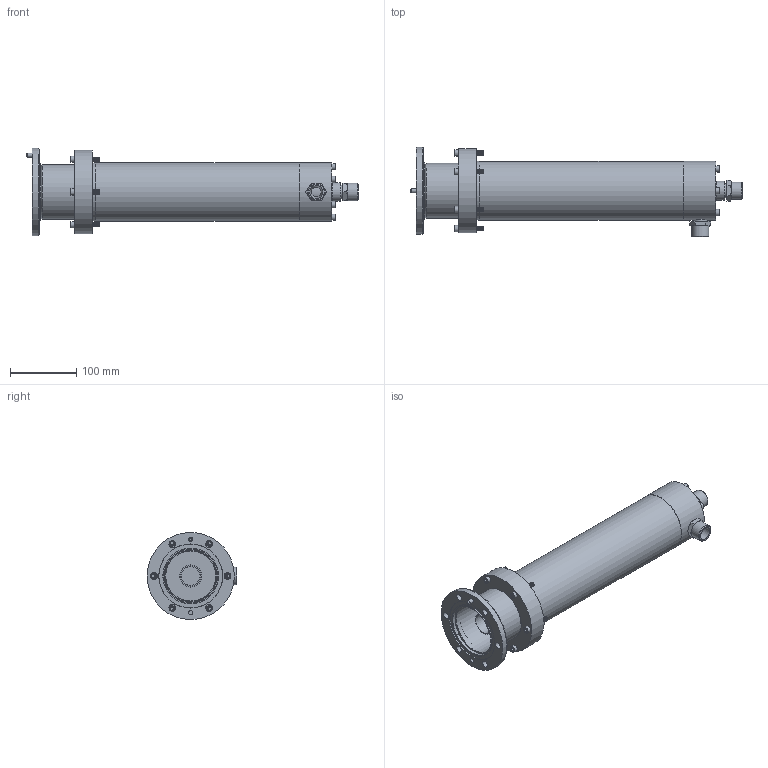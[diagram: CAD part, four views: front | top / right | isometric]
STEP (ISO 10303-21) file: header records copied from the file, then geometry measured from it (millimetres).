
FILE_DESCRIPTION( ( 'Unknown' ), '1' );
FILE_NAME( 'Q:/PROJECTS/Library of Standard Models/8745-8755-8765/8745_RevP_STEP.stp', 'Unknown', ( 'Unknown' ), ( 'Unknown' ), 'PSStep 16.0.42', 'Unknown', ' ' );
FILE_SCHEMA( ( 'AUTOMOTIVE_DESIGN { 1 0 10303 214 1 1 1 1 }' ) );
Length unit declared in the file: millimetre
Products named in the file (3): 1; 6
Bounding box: 502.07 x 135.53 x 131.76 mm (x, y, z)
Volume: 2668346.3 mm3; surface area: 258992.2 mm2
Topology: 2 solids, 9 shells, 389 faces, 1193 edges, 878 vertices
Faces by surface type: plane 157, cone 141, cylinder 75, bspline 12, torus 4
Full cylindrical faces by diameter (mm): 6.223 x1, 6.248 x1, 6.528 x1, 9.525 x12, 10.312 x6, 12.7 x1, 15 x2, 18.256 x2, 20 x2, 20.96 x2, 26.44 x2, 28.194 x1, 28.219 x1, 28.575 x1, 31.166 x1, 33.401 x1, 75.692 x1, 76.886 x1, 79.248 x1, 79.502 x1, 81.356 x1, 82.144 x1, 82.423 x1, 82.55 x1, 84.455 x1, 84.582 x1, 84.836 x2, 85.725 x1, 86.36 x2, 87.63 x1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
Entity records: 23519 total; most frequent: CARTESIAN_POINT 10546, ORIENTED_EDGE 2110, DIRECTION 1520, EDGE_CURVE 1061, VERTEX_POINT 857, AXIS2_PLACEMENT_3D 682, EDGE_LOOP 584, STYLED_ITEM 575
